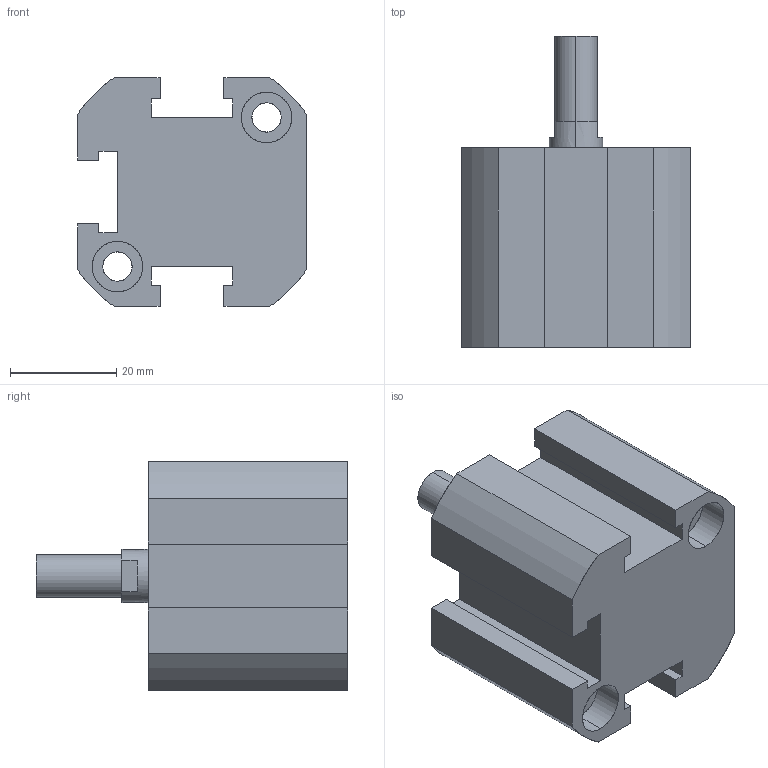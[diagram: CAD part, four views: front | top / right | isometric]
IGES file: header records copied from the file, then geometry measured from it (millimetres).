
Start section: SolidWorks IGES file using analytic representation for surfaces
Global section: file name: C:\Users\Toshiba\Desktop\XC#M2-25D-10.IGS; native system: SolidWorks 2014; preprocessor: SolidWorks 2014; author: Toshiba; date: 160523.164436; units: millimetre
Bounding box: 43 x 58.5 x 43 mm (x, y, z)
Surface area: 13928.3 mm2 (no closed solid volume)
Topology: 0 solids, 0 shells, 92 faces, 1336 edges, 1332 vertices
Faces by surface type: revolution 46, bspline 46
